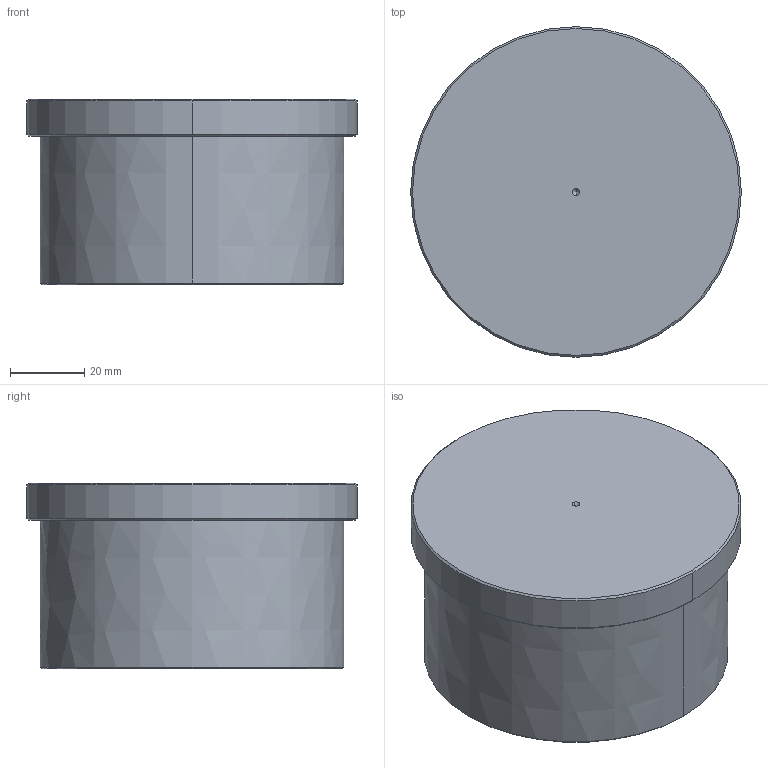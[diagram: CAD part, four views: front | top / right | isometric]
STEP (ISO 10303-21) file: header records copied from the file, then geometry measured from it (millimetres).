
FILE_DESCRIPTION((''),'2;1');
FILE_NAME('3_9219_0101_DRUCKST_100T','2022-09-02T',('TMarzahn'),(''),'CREO PARAMETRIC BY PTC INC, 2018220','CREO PARAMETRIC BY PTC INC, 2018220','');
FILE_SCHEMA(('CONFIG_CONTROL_DESIGN'));
Length unit declared in the file: millimetre
Products named in the file (1): 3_9219_0101_DRUCKST_100T
Bounding box: 89 x 89 x 50 mm (x, y, z)
Volume: 229804.3 mm3; surface area: 29172.2 mm2
Topology: 1 solids, 1 shells, 30 faces, 71 edges, 42 vertices
Faces by surface type: bspline 30
Entity records: 1264 total; most frequent: CARTESIAN_POINT 601, ORIENTED_EDGE 134, DIRECTION 93, EDGE_CURVE 67, VERTEX_POINT 42, EDGE_LOOP 35, AXIS2_PLACEMENT_3D 33, CIRCLE 33
